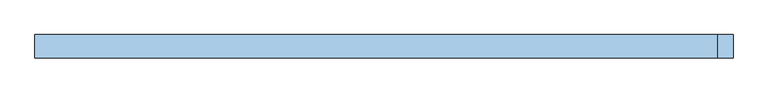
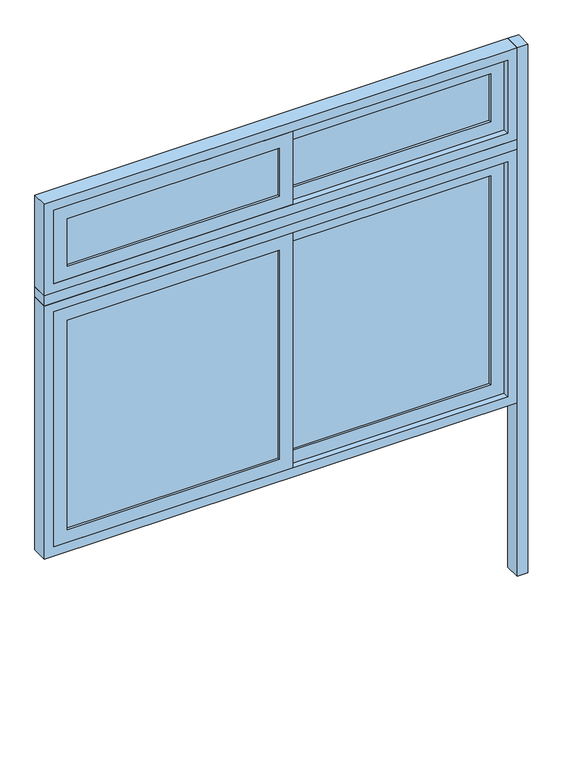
"""IFC4 building model written with IfcOpenShell, lengths in millimetres: window geometry, A4 Cerramiento aula Exterior_vidrios corredizos : A4 Cerramiento aula Exterior_vidrios corredizos."""

from ifc_helpers import new_model, si_unit, frame, origin, origin_with_axes, place, context, project, spatial, polyline, outline, extrude, source, transform, mapped, element, save


def window_f213b4f0(model_context):
    return source(origin(), model_context, "Body", "SweptSolid", [
        extrude(outline(polyline([(1125.0, 92.0), (1125.0, 17.0), (1075.0, 17.0), (1075.0, 92.0), (1125.0, 92.0)])), origin_with_axes(), (0.0, 0.0, 1.0), 2600.0),
        extrude(outline(polyline([(-31.5, 28.0), (-1017.0, 28.0), (-1017.0, 34.0), (-31.5, 34.0), (-31.5, 28.0)])), frame((0.0, 0.0, 2258.0), z_axis=(0.0, 0.0, 1.0), x_axis=(1.0, 0.0, 0.0)), (0.0, 0.0, 1.0), 234.0),
        extrude(outline(polyline([(-31.5, 28.0), (-1017.0, 28.0), (-1017.0, 34.0), (-31.5, 34.0), (-31.5, 28.0)])), frame((0.0, 0.0, 963.0), z_axis=(0.0, 0.0, 1.0), x_axis=(1.0, 0.0, 0.0)), (0.0, 0.0, 1.0), 1029.0),
        extrude(outline(polyline([(967.0, 56.0), (31.5, 56.0), (31.5, 62.0), (967.0, 62.0), (967.0, 56.0)])), frame((0.0, 0.0, 2258.0), z_axis=(0.0, 0.0, 1.0), x_axis=(1.0, 0.0, 0.0)), (0.0, 0.0, 1.0), 234.0),
        extrude(outline(polyline([(967.0, 56.0), (31.5, 56.0), (31.5, 62.0), (967.0, 62.0), (967.0, 56.0)])), frame((0.0, 0.0, 963.0), z_axis=(0.0, 0.0, 1.0), x_axis=(1.0, 0.0, 0.0)), (0.0, 0.0, 1.0), 1029.0),
        extrude(outline(polyline([(2555.0, -1080.0), (2195.0, -1080.0), (2195.0, 31.5), (2555.0, 31.5), (2555.0, -1080.0)]), holes=[polyline([(2258.0, -1017.0), (2492.0, -1017.0), (2492.0, -31.5), (2258.0, -31.5), (2258.0, -1017.0)])]), frame((0.0, 17.0, 0.0), z_axis=(0.0, 1.0, 0.0), x_axis=(0.0, 0.0, 1.0)), (0.0, 0.0, 1.0), 28.0),
        extrude(outline(polyline([(2055.0, -1080.0), (900.0, -1080.0), (900.0, 31.5), (2055.0, 31.5), (2055.0, -1080.0)]), holes=[polyline([(963.0, -1017.0), (1992.0, -1017.0), (1992.0, -31.5), (963.0, -31.5), (963.0, -1017.0)])]), frame((0.0, 17.0, 0.0), z_axis=(0.0, 1.0, 0.0), x_axis=(0.0, 0.0, 1.0)), (0.0, 0.0, 1.0), 28.0),
        extrude(outline(polyline([(2195.0, -31.5), (2195.0, 1030.0), (2555.0, 1030.0), (2555.0, -31.5), (2195.0, -31.5)]), holes=[polyline([(2492.0, 31.5), (2492.0, 967.0), (2258.0, 967.0), (2258.0, 31.5), (2492.0, 31.5)])]), frame((0.0, 45.0, 0.0), z_axis=(0.0, 1.0, 0.0), x_axis=(0.0, 0.0, 1.0)), (0.0, 0.0, 1.0), 28.0),
        extrude(outline(polyline([(900.0, -31.5), (900.0, 1030.0), (2055.0, 1030.0), (2055.0, -31.5), (900.0, -31.5)]), holes=[polyline([(1992.0, 31.5), (1992.0, 967.0), (963.0, 967.0), (963.0, 31.5), (1992.0, 31.5)])]), frame((0.0, 45.0, 0.0), z_axis=(0.0, 1.0, 0.0), x_axis=(0.0, 0.0, 1.0)), (0.0, 0.0, 1.0), 28.0),
        extrude(outline(polyline([(2600.0, -1125.0), (2150.0, -1125.0), (2150.0, 1075.0), (2600.0, 1075.0), (2600.0, -1125.0)]), holes=[polyline([(2555.0, -1080.0), (2555.0, 1030.0), (2195.0, 1030.0), (2195.0, -1080.0), (2555.0, -1080.0)])]), frame((0.0, 17.0, 0.0), z_axis=(0.0, 1.0, 0.0), x_axis=(0.0, 0.0, 1.0)), (0.0, 0.0, 1.0), 75.0),
        extrude(outline(polyline([(2100.0, -1125.0), (855.0, -1125.0), (855.0, 1075.0), (2100.0, 1075.0), (2100.0, -1125.0)]), holes=[polyline([(2055.0, -1080.0), (2055.0, 1030.0), (900.0, 1030.0), (900.0, -1080.0), (2055.0, -1080.0)])]), frame((0.0, 17.0, 0.0), z_axis=(0.0, 1.0, 0.0), x_axis=(0.0, 0.0, 1.0)), (0.0, 0.0, 1.0), 75.0),
        extrude(outline(polyline([(1075.0, 17.0), (-1125.0, 17.0), (-1125.0, 92.0), (1075.0, 92.0), (1075.0, 17.0)])), frame((0.0, 0.0, 2100.0), z_axis=(0.0, 0.0, 1.0), x_axis=(1.0, 0.0, 0.0)), (0.0, 0.0, 1.0), 50.0),
    ])


if __name__ == "__main__":
    model = new_model("IFC4")
    model_context = context("Model", 3, world=origin())
    ifc_project = project(units=[si_unit("LENGTHUNIT", "METRE", prefix="MILLI")], contexts=[model_context])
    site = spatial("IfcSite", under=ifc_project)
    building = spatial("IfcBuilding", under=site)
    placement = place(None, origin())
    window_shape = window_f213b4f0(model_context)
    element("IfcWindow", 1, ObjectType="A4 Cerramiento aula Exterior_vidrios corredizos : A4 Cerramiento aula Exterior_vidrios corredizos", at=placement, inside=building, context=model_context, shape_type="MappedRepresentation", body=[
        mapped(window_shape, transform((0.0, 0.0, 0.0), x_axis=(1.0, 0.0, 0.0), y_axis=(0.0, 1.0, 0.0), z_axis=(0.0, 0.0, 1.0))),
    ])
    save(model, "model.ifc")
